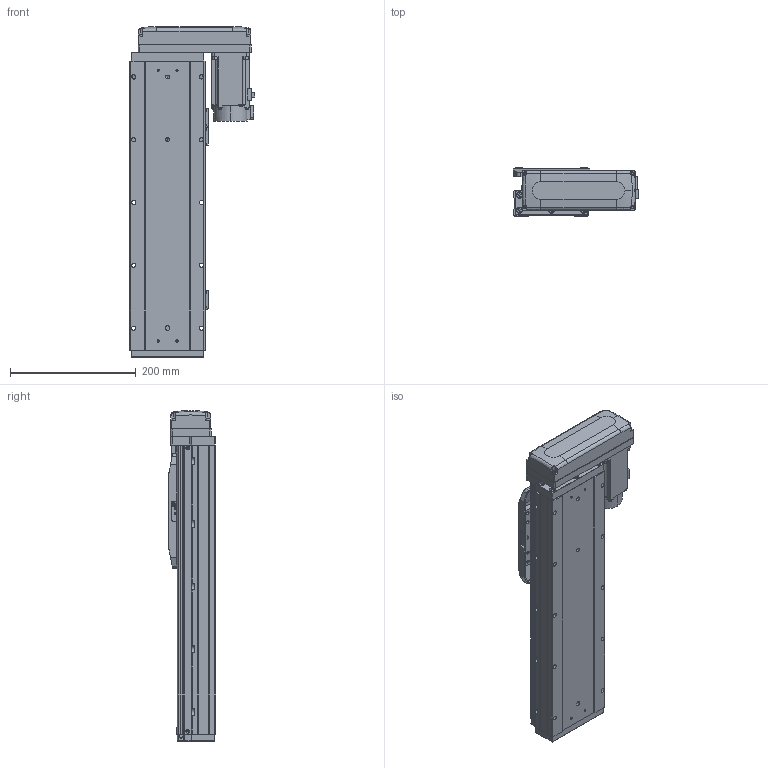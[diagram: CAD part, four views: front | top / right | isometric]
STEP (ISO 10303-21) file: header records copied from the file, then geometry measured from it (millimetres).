
FILE_DESCRIPTION (( 'STEP AP203' ), '1' );
FILE_NAME ('GTH12-250-BL-M40-C4.step', '2023-07-04T10:40:01', ( '微软用户' ), ( '微软中国' ), 'SwSTEP 2.0', 'SolidWorks 2020', '' );
FILE_SCHEMA (( 'CONFIG_CONTROL_DESIGN' ));
Length unit declared in the file: millimetre
Products named in the file (18): GTH120-013; GTH50-024; GBT 70.1-M3℅6; GBT96.1-2002 3×0.8; GBT 70.1-M5×16; BTH-M3X5X6; GTH120-001_250; GBT 70.3-M3℅8; hg-kn43j_-s100_; GTH120-003; GTH80-022; CTHA86-033_M40B; GTH120-006; GTH80-028; GTH120-027-1_GTH120-027-2; GTH120-004; GTH50-023; GTH12-250-BL-M40-C4
Assembly tree (59 placements, depth 2):
  GTH12-250-BL-M40-C4
    GTH120-001_250
    GTH120-003
    GTH120-006
    GTH120-004
    GTH120-013
    GBT 70.1-M3℅6  x14
    GBT 70.1-M5×16  x10
    GBT 70.3-M3℅8  x4
    GTH80-022
    GTH80-028  x2
    GTH50-023  x3
    GTH50-024  x3
    GBT96.1-2002 3×0.8  x6
    BTH-M3X5X6  x8
    hg-kn43j_-s100_
    CTHA86-033_M40B
    GTH120-027-1_GTH120-027-2
Bounding box: 199.8 x 76 x 525.5 mm (x, y, z)
Volume: 4280504.1 mm3; surface area: 467677 mm2
Topology: 61 solids, 61 shells, 2359 faces, 5472 edges, 3355 vertices
Faces by surface type: plane 1230, cylinder 665, cone 276, torus 174, sphere 8, bspline 6
Entity records: 42946 total; most frequent: CARTESIAN_POINT 7272, DIRECTION 7068, ORIENTED_EDGE 6554, EDGE_CURVE 3277, AXIS2_PLACEMENT_3D 2472, LINE 2124, VECTOR 2124, VERTEX_POINT 2076
